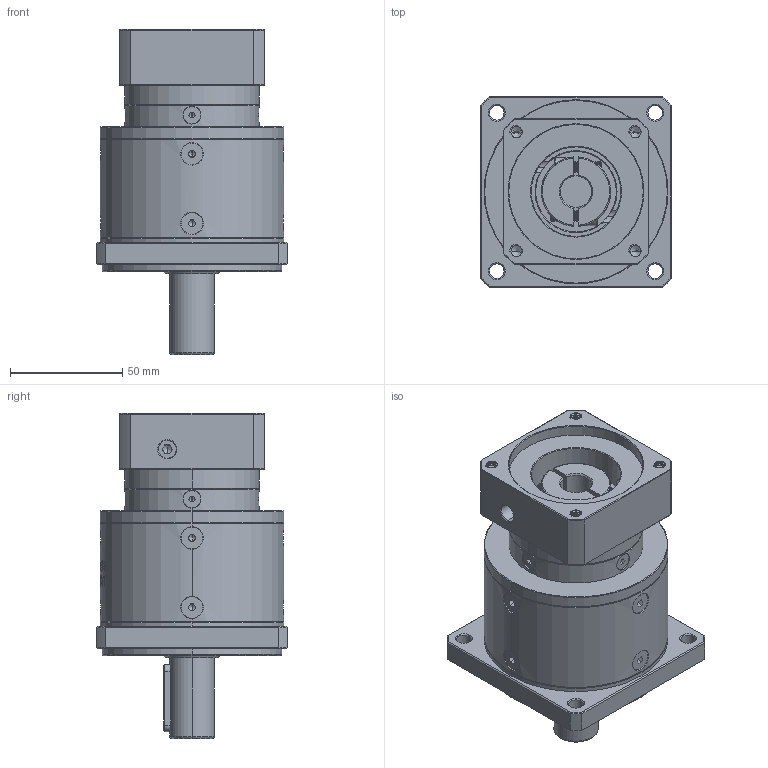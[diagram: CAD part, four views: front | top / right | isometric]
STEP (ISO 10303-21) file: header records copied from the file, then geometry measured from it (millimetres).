
FILE_DESCRIPTION (( 'STEP AP214' ), '1' );
FILE_NAME ('ZF080-D20-L2-P2-14-60-75-M6.step', '2023-08-19T06:53:14', ( '' ), ( '' ), 'SwSTEP 2.0', 'SolidWorks 2016', '' );
FILE_SCHEMA (( 'AUTOMOTIVE_DESIGN' ));
Length unit declared in the file: millimetre
Products named in the file (1): ZF080-D20-L2-P2-14-60-75-M6
Bounding box: 85 x 85 x 145 mm (x, y, z)
Volume: 481377.6 mm3; surface area: 70715.1 mm2
Topology: 18 solids, 18 shells, 2302 faces, 6056 edges, 3856 vertices
Faces by surface type: plane 1128, cylinder 411, bspline 394, cone 327, torus 42
Entity records: 122260 total; most frequent: CARTESIAN_POINT 45059, ORIENTED_EDGE 12036, DIRECTION 9061, EDGE_CURVE 6018, VERTEX_POINT 3856, VECTOR 3193, LINE 3193, AXIS2_PLACEMENT_3D 2934
